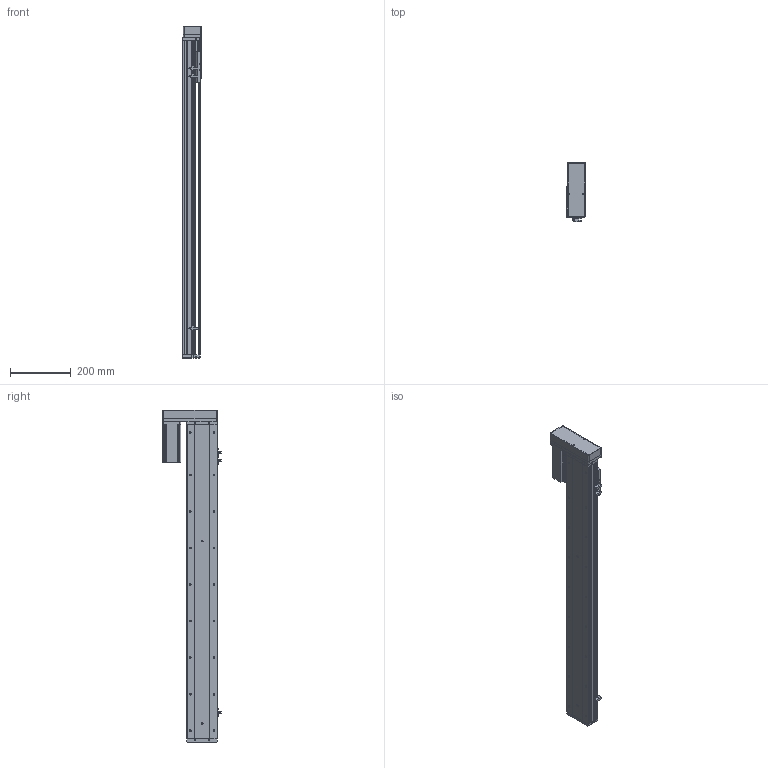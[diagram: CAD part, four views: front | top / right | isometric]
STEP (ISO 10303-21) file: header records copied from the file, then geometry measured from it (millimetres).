
FILE_DESCRIPTION (( 'STEP AP214' ), '1' );
FILE_NAME ('KSD100S-S850-ML-CM.STEP', '2019-08-30T06:32:31', ( '微软用户' ), ( '微软中国' ), 'SwSTEP 2.0', 'SolidWorks 2014', '' );
FILE_SCHEMA (( 'AUTOMOTIVE_DESIGN' ));
Length unit declared in the file: millimetre
Products named in the file (10): 100遵鎮湛假蚾啣; 100宽滚珠螺姆安装板半封闭; 100遵傷啣; 100宽底板半封闭丝杆850行程; KSD100S-S850-ML-CM; 悵誘欶酘衵殏; 台达ECMA－C20604AS伺服电机; 100宽马达安装板连板左右折丝杆; U倰嫖萇EEㄜSX672; 100宽防尘板丝杆850行程
Assembly tree (11 placements, depth 2):
  KSD100S-S850-ML-CM
    100宽底板半封闭丝杆850行程
    100遵傷啣
    100宽滚珠螺姆安装板半封闭
    100遵鎮湛假蚾啣
    100宽防尘板丝杆850行程
    U倰嫖萇EEㄜSX672  x3
    100宽马达安装板连板左右折丝杆
    台达ECMA－C20604AS伺服电机
    悵誘欶酘衵殏
Bounding box: 62 x 193.7 x 1090.5 mm (x, y, z)
Volume: 2613227.8 mm3; surface area: 850131.8 mm2
Topology: 12 solids, 12 shells, 1295 faces, 3656 edges, 2305 vertices
Faces by surface type: cylinder 646, plane 498, cone 151
Entity records: 45429 total; most frequent: CARTESIAN_POINT 9012, DIRECTION 6157, ORIENTED_EDGE 5916, EDGE_CURVE 2958, AXIS2_PLACEMENT_3D 2254, VERTEX_POINT 1929, VECTOR 1649, LINE 1649
